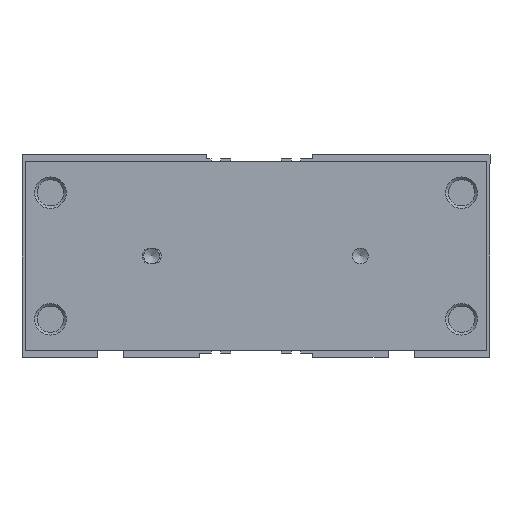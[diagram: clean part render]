
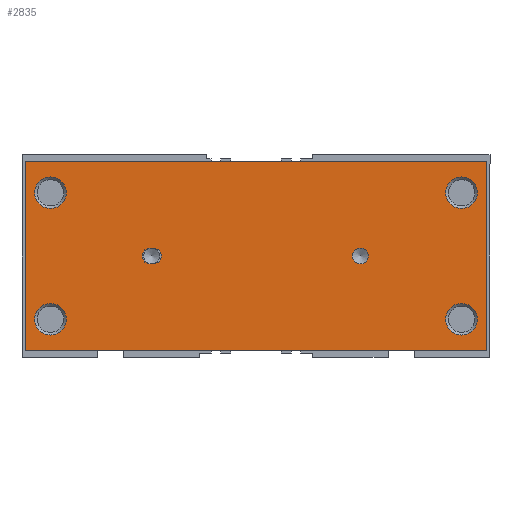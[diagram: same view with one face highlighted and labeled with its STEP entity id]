
A CAD part, left-side view. The second image highlights one B-rep face of the part: STEP entity #2835.
In plain terms, the highlighted planar face has unit normal (-1, 0, 0) as drawn and (0, 0, 1) by its records, which use the part's own axes.
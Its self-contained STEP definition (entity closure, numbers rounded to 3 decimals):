
#245=CIRCLE('',#3160,5.);
#246=CIRCLE('',#3161,5.);
#247=CIRCLE('',#3162,5.);
#248=CIRCLE('',#3163,5.);
#249=CIRCLE('',#3164,2.5);
#250=CIRCLE('',#3165,2.5);
#251=CIRCLE('',#3166,2.5);
#826=ORIENTED_EDGE('',*,*,#1234,.F.);
#827=ORIENTED_EDGE('',*,*,#1235,.F.);
#828=ORIENTED_EDGE('',*,*,#1236,.F.);
#829=ORIENTED_EDGE('',*,*,#1237,.F.);
#830=ORIENTED_EDGE('',*,*,#1238,.F.);
#831=ORIENTED_EDGE('',*,*,#1239,.F.);
#832=ORIENTED_EDGE('',*,*,#1240,.F.);
#833=ORIENTED_EDGE('',*,*,#1241,.F.);
#834=ORIENTED_EDGE('',*,*,#1242,.F.);
#835=ORIENTED_EDGE('',*,*,#1215,.T.);
#836=ORIENTED_EDGE('',*,*,#1219,.T.);
#837=ORIENTED_EDGE('',*,*,#1222,.T.);
#838=ORIENTED_EDGE('',*,*,#1225,.T.);
#1215=EDGE_CURVE('',#1502,#1503,#1733,.T.);
#1219=EDGE_CURVE('',#1503,#1506,#1737,.T.);
#1222=EDGE_CURVE('',#1506,#1508,#1740,.T.);
#1225=EDGE_CURVE('',#1508,#1502,#1743,.T.);
#1234=EDGE_CURVE('',#1517,#1517,#245,.T.);
#1235=EDGE_CURVE('',#1518,#1518,#246,.T.);
#1236=EDGE_CURVE('',#1519,#1519,#247,.T.);
#1237=EDGE_CURVE('',#1520,#1520,#248,.T.);
#1238=EDGE_CURVE('',#1521,#1521,#249,.T.);
#1239=EDGE_CURVE('',#1522,#1523,#250,.T.);
#1240=EDGE_CURVE('',#1524,#1522,#1745,.T.);
#1241=EDGE_CURVE('',#1525,#1524,#251,.T.);
#1242=EDGE_CURVE('',#1523,#1525,#1746,.T.);
#1502=VERTEX_POINT('',#4695);
#1503=VERTEX_POINT('',#4696);
#1506=VERTEX_POINT('',#4704);
#1508=VERTEX_POINT('',#4710);
#1517=VERTEX_POINT('',#4734);
#1518=VERTEX_POINT('',#4736);
#1519=VERTEX_POINT('',#4738);
#1520=VERTEX_POINT('',#4740);
#1521=VERTEX_POINT('',#4742);
#1522=VERTEX_POINT('',#4744);
#1523=VERTEX_POINT('',#4745);
#1524=VERTEX_POINT('',#4747);
#1525=VERTEX_POINT('',#4749);
#1733=LINE('',#4694,#1941);
#1737=LINE('',#4703,#1945);
#1740=LINE('',#4709,#1948);
#1743=LINE('',#4715,#1951);
#1745=LINE('',#4746,#1953);
#1746=LINE('',#4750,#1954);
#1941=VECTOR('',#3869,1000.);
#1945=VECTOR('',#3875,1000.);
#1948=VECTOR('',#3880,1000.);
#1951=VECTOR('',#3885,1000.);
#1953=VECTOR('',#3917,1000.);
#1954=VECTOR('',#3920,1000.);
#2211=EDGE_LOOP('',(#826));
#2212=EDGE_LOOP('',(#827));
#2213=EDGE_LOOP('',(#828));
#2214=EDGE_LOOP('',(#829));
#2215=EDGE_LOOP('',(#830));
#2216=EDGE_LOOP('',(#831,#832,#833,#834));
#2217=EDGE_LOOP('',(#835,#836,#837,#838));
#2525=FACE_BOUND('',#2211,.T.);
#2526=FACE_BOUND('',#2212,.T.);
#2527=FACE_BOUND('',#2213,.T.);
#2528=FACE_BOUND('',#2214,.T.);
#2529=FACE_BOUND('',#2215,.T.);
#2530=FACE_BOUND('',#2216,.T.);
#2531=FACE_BOUND('',#2217,.T.);
#2676=PLANE('',#3159);
#2835=ADVANCED_FACE('',(#2525,#2526,#2527,#2528,#2529,#2530,#2531),#2676,
 .T.);
#3159=AXIS2_PLACEMENT_3D('',#4732,#3903,#3904);
#3160=AXIS2_PLACEMENT_3D('',#4733,#3905,#3906);
#3161=AXIS2_PLACEMENT_3D('',#4735,#3907,#3908);
#3162=AXIS2_PLACEMENT_3D('',#4737,#3909,#3910);
#3163=AXIS2_PLACEMENT_3D('',#4739,#3911,#3912);
#3164=AXIS2_PLACEMENT_3D('',#4741,#3913,#3914);
#3165=AXIS2_PLACEMENT_3D('',#4743,#3915,#3916);
#3166=AXIS2_PLACEMENT_3D('',#4748,#3918,#3919);
#3869=DIRECTION('',(0.,-1.,0.));
#3875=DIRECTION('',(1.,0.,0.));
#3880=DIRECTION('',(0.,1.,0.));
#3885=DIRECTION('',(-1.,0.,0.));
#3903=DIRECTION('',(0.,0.,1.));
#3904=DIRECTION('',(1.,0.,0.));
#3905=DIRECTION('',(0.,0.,1.));
#3906=DIRECTION('',(1.,0.,0.));
#3907=DIRECTION('',(0.,0.,1.));
#3908=DIRECTION('',(1.,0.,0.));
#3909=DIRECTION('',(0.,0.,1.));
#3910=DIRECTION('',(1.,0.,0.));
#3911=DIRECTION('',(0.,0.,1.));
#3912=DIRECTION('',(1.,0.,0.));
#3913=DIRECTION('',(0.,0.,1.));
#3914=DIRECTION('',(1.,0.,0.));
#3915=DIRECTION('',(0.,0.,1.));
#3916=DIRECTION('',(1.,0.,0.));
#3917=DIRECTION('',(0.,1.,0.));
#3918=DIRECTION('',(0.,0.,1.));
#3919=DIRECTION('',(1.,0.,0.));
#3920=DIRECTION('',(0.,-1.,0.));
#4694=CARTESIAN_POINT('',(-30.,73.,28.));
#4695=CARTESIAN_POINT('',(-30.,73.,28.));
#4696=CARTESIAN_POINT('',(-30.,-73.,28.));
#4703=CARTESIAN_POINT('',(-30.,-73.,28.));
#4704=CARTESIAN_POINT('',(30.,-73.,28.));
#4709=CARTESIAN_POINT('',(30.,-73.,28.));
#4710=CARTESIAN_POINT('',(30.,73.,28.));
#4715=CARTESIAN_POINT('',(30.,73.,28.));
#4732=CARTESIAN_POINT('',(0.,0.,28.));
#4733=CARTESIAN_POINT('',(-20.,65.,28.));
#4734=CARTESIAN_POINT('',(-15.,65.,28.));
#4735=CARTESIAN_POINT('',(20.,65.,28.));
#4736=CARTESIAN_POINT('',(25.,65.,28.));
#4737=CARTESIAN_POINT('',(-20.,-65.,28.));
#4738=CARTESIAN_POINT('',(-15.,-65.,28.));
#4739=CARTESIAN_POINT('',(20.,-65.,28.));
#4740=CARTESIAN_POINT('',(25.,-65.,28.));
#4741=CARTESIAN_POINT('',(0.,-33.,28.));
#4742=CARTESIAN_POINT('',(2.5,-33.,28.));
#4743=CARTESIAN_POINT('',(0.,33.5,28.));
#4744=CARTESIAN_POINT('',(2.5,33.5,28.));
#4745=CARTESIAN_POINT('',(-2.5,33.5,28.));
#4746=CARTESIAN_POINT('',(2.5,32.5,28.));
#4747=CARTESIAN_POINT('',(2.5,32.5,28.));
#4748=CARTESIAN_POINT('',(0.,32.5,28.));
#4749=CARTESIAN_POINT('',(-2.5,32.5,28.));
#4750=CARTESIAN_POINT('',(-2.5,33.5,28.));
